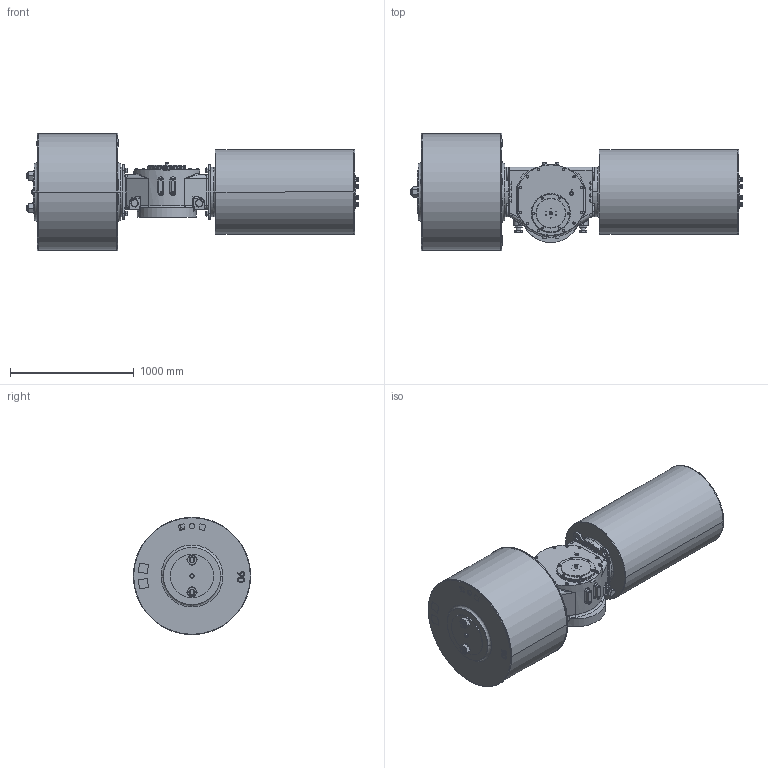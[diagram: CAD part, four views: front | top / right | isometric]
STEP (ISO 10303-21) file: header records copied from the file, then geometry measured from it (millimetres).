
FILE_DESCRIPTION (( 'STEP AP203' ), '1' );
FILE_NAME ('VTS6-900-SR-FC.STEP', '2023-01-01T09:56:57', ( '' ), ( '' ), 'SwSTEP 2.0', 'SolidWorks 2020', '' );
FILE_SCHEMA (( 'CONFIG_CONTROL_DESIGN' ));
Length unit declared in the file: millimetre
Products named in the file (1): VTS6-900-SR-FC
Bounding box: 2677.72 x 947 x 947 mm (x, y, z)
Volume: 986242728.8 mm3; surface area: 8820692.5 mm2
Topology: 1 solids, 37 shells, 2442 faces, 6216 edges, 3925 vertices
Faces by surface type: plane 1008, cylinder 760, cone 583, bspline 91
Entity records: 88322 total; most frequent: CARTESIAN_POINT 30242, ORIENTED_EDGE 12296, DIRECTION 12092, EDGE_CURVE 6148, AXIS2_PLACEMENT_3D 4833, VERTEX_POINT 3925, EDGE_LOOP 2721, CIRCLE 2481
